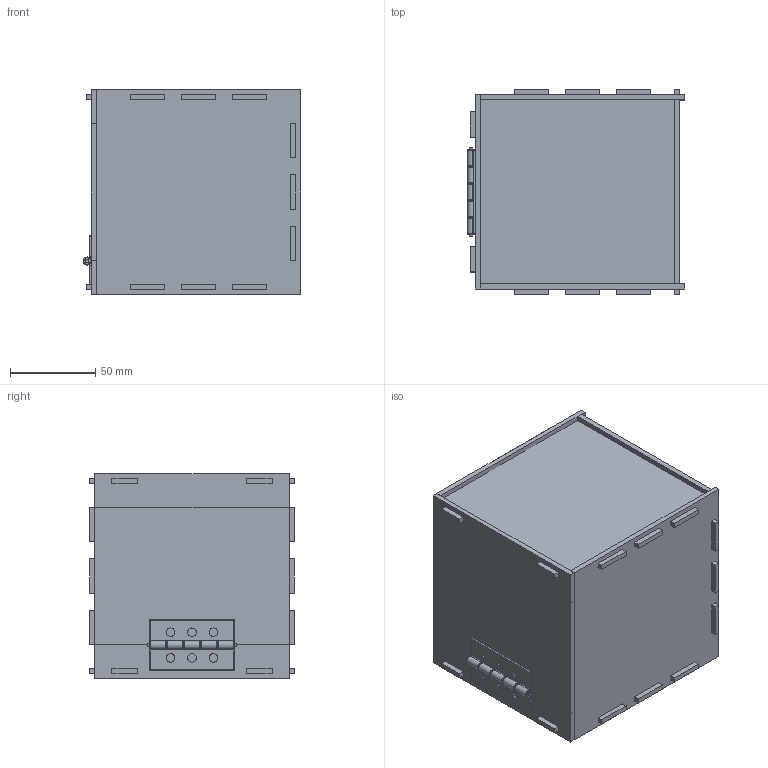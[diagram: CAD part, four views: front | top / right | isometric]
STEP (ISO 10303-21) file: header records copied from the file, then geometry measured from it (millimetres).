
FILE_DESCRIPTION(/* description */ (''),/* implementation_level */ '2;1');
FILE_NAME(/* name */ 'Box assembly v13.step',/* time_stamp */ '2023-09-02T21:52:41+03:00',/* author */ (''),/* organization */ (''),/* preprocessor_version */ 'ST-DEVELOPER v20',/* originating_system */ 'Autodesk Translation Framework v12.9.0.99',/* authorisation */ '');
FILE_SCHEMA (('AUTOMOTIVE_DESIGN { 1 0 10303 214 3 1 1 }'));
Length unit declared in the file: millimetre
Products named in the file (12): Box assembly; ceil; Bottom; Hing floor; part; Door; Back; Face1; Hinge Assembly; Payload Hinge 1; Payload Hinge 2; Hinge's rod
Assembly tree (11 placements, depth 3):
  Box assembly
    ceil
    Bottom
    Hing floor
    part
    Door
    Back
    Face1  x2
    Hinge Assembly
      Payload Hinge 1
      Payload Hinge 2
  Hinge's rod
Bounding box: 127.8 x 120 x 120 mm (x, y, z)
Volume: 246053 mm3; surface area: 180195.2 mm2
Topology: 13 solids, 13 shells, 307 faces, 829 edges, 544 vertices
Faces by surface type: plane 252, cylinder 37, torus 12, bspline 4, sphere 2
Full cylindrical faces by diameter (mm): 2 x6, 5 x6
Entity records: 8962 total; most frequent: CARTESIAN_POINT 1727, ORIENTED_EDGE 1434, DIRECTION 1364, EDGE_CURVE 717, LINE 610, VECTOR 610, VERTEX_POINT 472, AXIS2_PLACEMENT_3D 377
